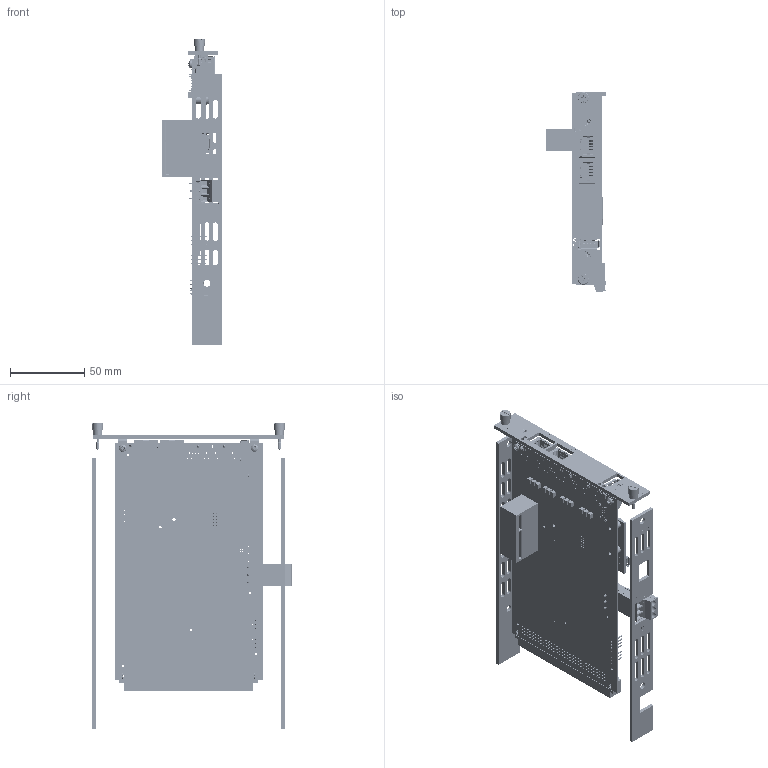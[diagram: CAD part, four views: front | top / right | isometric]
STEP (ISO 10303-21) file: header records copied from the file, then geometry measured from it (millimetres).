
FILE_DESCRIPTION (( 'STEP AP214' ), '1' );
FILE_NAME ('3-4241BEU-4xx-B00000.STEP', '2022-09-28T23:05:24', ( '' ), ( '' ), 'SwSTEP 2.0', 'SolidWorks 2022', '' );
FILE_SCHEMA (( 'AUTOMOTIVE_DESIGN' ));
Length unit declared in the file: inch
Products named in the file (38): S13-0H5007-0NL; 016-P00103-08P; S25-0S0440-250_b; 2M2-B04112-551; 300-604147-103; 027-000001; 025-92M2R5-2006_cosmetic; S14-105017-USB; 0S7-010226-000; 014-0RJE73-4K0; 200-604019-100_no knurling; 0S1-LS1021-1KZ; 0S6-001102-ILO_b; S14-CLT000-012; 2M1-B04241-551; 0S6-001102-ILO; 100-0002GB-M3B; 025-10M2R5-2005_5mm; 0S1-000067; 200-604147-553; 0S6-RG1204-000_b; 3-4241BEU-4xx-B00000; 014-000031; 025-920440-2004; S19-PTS840-0GK; 014-000010-2MM; 200-604241-552_Full; 014-048404-003; 2M0-603041-550; 300-604241-10X_102_OPT 2- 2 ETHERNET PORTS; 0S1-LCMX02-256; APTB1612YSGC-F01; 014-000010; 016-090A03-08P; S14-00DDR3-204; 014-98317A-064; 2M1-B03032-551
Assembly tree (57 placements, depth 4):
  3-4241BEU-4xx-B00000
    2M1-B04241-551
      2M1-B04241-551
      2M0-603041-550  x2
      025-10M2R5-2005_5mm  x2
    300-604241-10X_102_OPT 2- 2 ETHERNET PORTS
      200-604241-552_Full
      0S7-010226-000  x12
      0S1-LCMX02-256
      0S1-LS1021-1KZ
      S13-0H5007-0NL  x2
      014-0RJE73-4K0  x2
      014-048404-003
      016-090A03-08P
      S25-0S0440-250_b  x2
      300-604147-103
        200-604147-553
        S14-105017-USB
        S14-CLT000-012
      0S6-001102-ILO_b
      0S6-RG1204-000_b
      S19-PTS840-0GK
      APTB1612YSGC-F01
      0S6-001102-ILO  x2
      S14-00DDR3-204
      014-000031
      0S1-000067
      014-000010-2MM
      014-000010
    2M2-B04112-551
    2M1-B03032-551
    016-P00103-08P
    027-000001
    025-92M2R5-2006_cosmetic  x2
    100-0002GB-M3B
    025-920440-2004  x2
    200-604019-100_no knurling  x2
    014-98317A-064
Bounding box: 40.66 x 134.4 x 206.42 mm (x, y, z)
Volume: 86553.7 mm3; surface area: 111134.3 mm2
Topology: 378 solids, 395 shells, 16255 faces, 43280 edges, 28231 vertices
Faces by surface type: plane 11235, cylinder 3613, bspline 932, sphere 286, cone 175, torus 14
Entity records: 609239 total; most frequent: CARTESIAN_POINT 150907, ORIENTED_EDGE 77482, DIRECTION 65376, EDGE_CURVE 38845, LINE 26250, VECTOR 26250, VERTEX_POINT 25429, AXIS2_PLACEMENT_3D 19563
